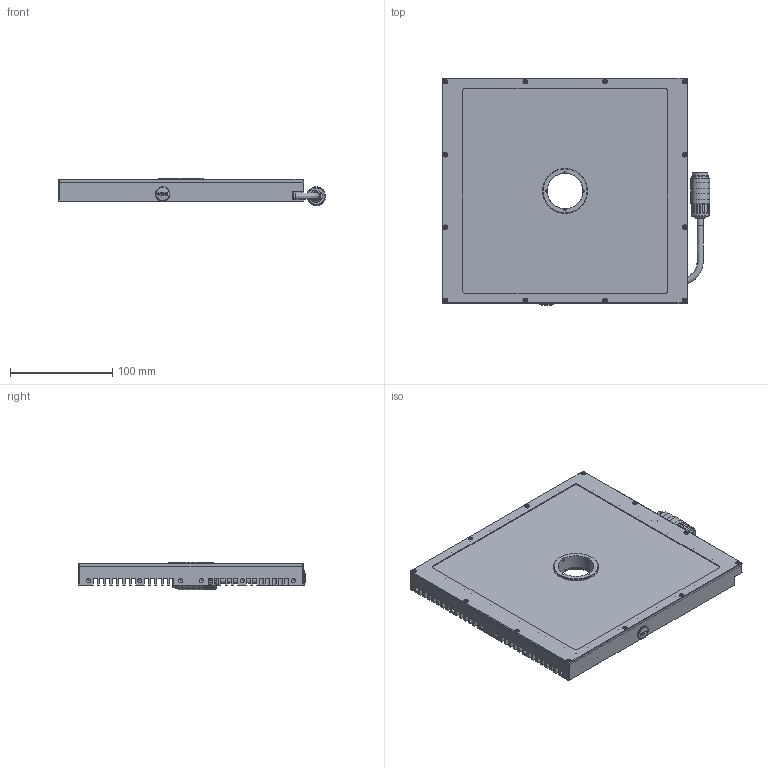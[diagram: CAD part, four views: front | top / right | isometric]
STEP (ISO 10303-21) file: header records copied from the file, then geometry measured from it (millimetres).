
FILE_DESCRIPTION(/* description */ ('CAx-IF Rec.Pracs.---Representation and Presentation of Product Manufacturing Information (PMI)---4.0---2014-10-13','CAx-IF Rec.Pracs.---3D Tessellated Geometry---0.4---2014-09-14','2;1'),/* implementation_level */ '2;1');
FILE_NAME(/* name */ 'LGCB2020-LGCB2020FL-V02',/* time_stamp */ '2019-12-03T13:06:54+01:00',/* author */ (''),/* organization */ ('iiM AG'),/* preprocessor_version */ 'ST-DEVELOPER v16.7',/* originating_system */ 'DEX',/* authorisation */ $);
FILE_SCHEMA (('AP242_MANAGED_MODEL_BASED_3D_ENGINEERING_MIM_LF { 1 0 10303 442 1 1 4 }'));
Length unit declared in the file: millimetre
Products named in the file (1): LGCB2020-V02_MO
Bounding box: 261.29 x 221.95 x 26.79 mm (x, y, z)
Volume: 520864.3 mm3; surface area: 330183.5 mm2
Topology: 3 solids, 16 shells, 1213 faces, 3281 edges, 2112 vertices
Faces by surface type: plane 556, cylinder 423, cone 187, bspline 18, torus 16, sphere 13
Full cylindrical faces by diameter (mm): 1 x12, 1.567 x24, 2 x12, 2.1 x8, 2.11 x4, 2.459 x4, 3.8 x12, 4.134 x54, 6 x2, 6.2 x1, 8 x1, 9 x1, 11 x3, 11.89 x1, 14 x1, 15 x1, 16 x1, 17.5 x1, 18.5 x3, 18.6 x2, 35 x1, 36 x1, 39 x2, 40 x1, 43 x1, 44 x1
Entity records: 49434 total; most frequent: CARTESIAN_POINT 13256, ORIENTED_EDGE 5568, DIRECTION 5463, EDGE_CURVE 2784, AXIS2_PLACEMENT_3D 2003, VERTEX_POINT 1965, FACE_BOUND 1615, EDGE_LOOP 1564
